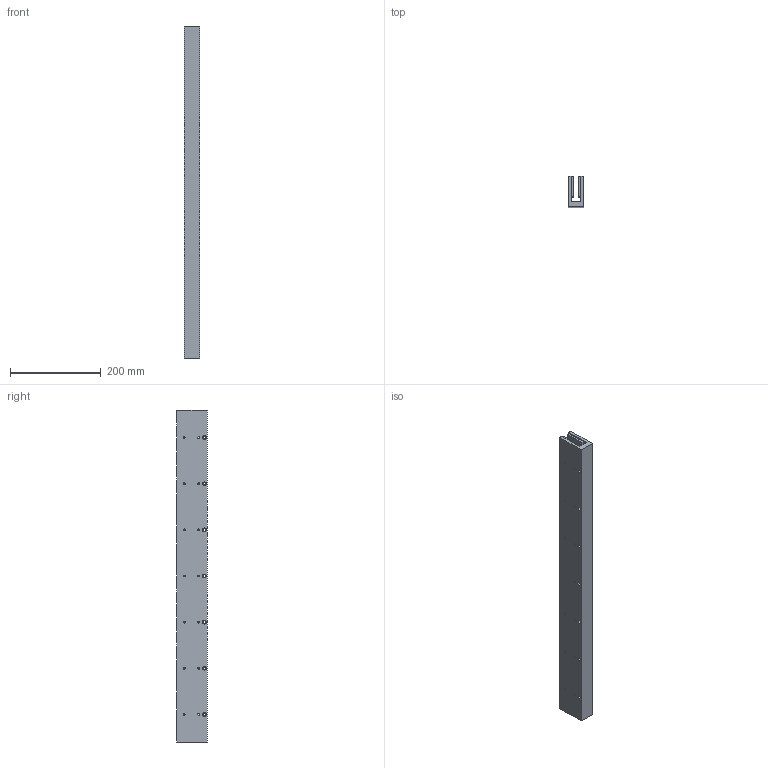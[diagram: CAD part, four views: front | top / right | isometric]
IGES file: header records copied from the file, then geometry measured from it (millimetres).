
Global section: file name: No Iges File Name specified; native system: Autodesk Inventor 2009; preprocessor: AutoDesk Inventor Iges Exporter R2009; author: je17857; date: 20091116.111521; units: inch
Bounding box: 34.29 x 67.31 x 731.52 mm (x, y, z)
Volume: 1094041.6 mm3; surface area: 275855.3 mm2
Topology: 1 solids, 1 shells, 370 faces, 894 edges, 596 vertices
Faces by surface type: plane 258, bspline 112
